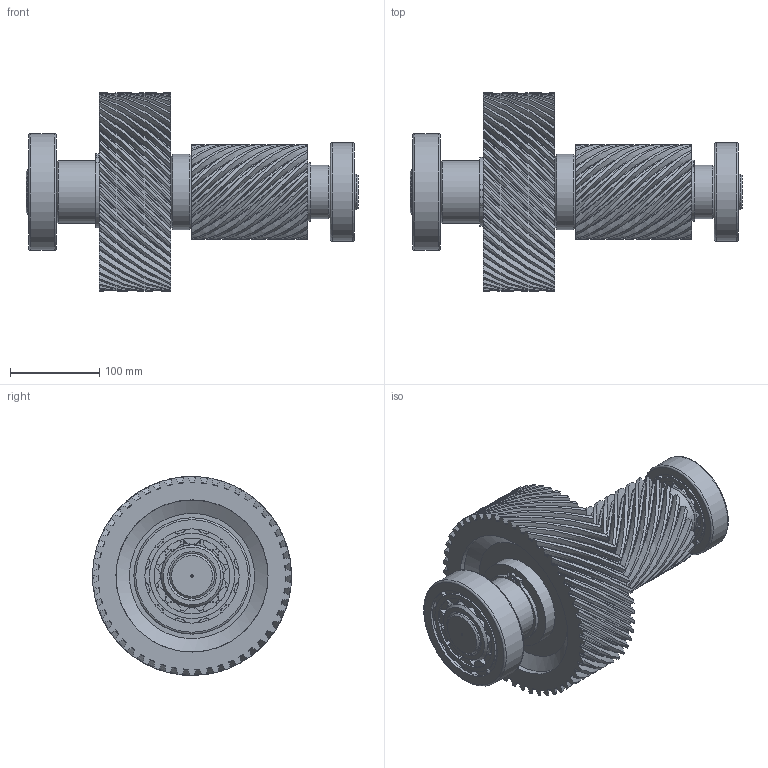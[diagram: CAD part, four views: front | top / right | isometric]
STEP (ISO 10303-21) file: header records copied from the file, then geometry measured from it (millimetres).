
FILE_DESCRIPTION(/* description */ (''),/* implementation_level */ '2;1');
FILE_NAME(/* name */ 'G:\YandexDisk\Работа\Inventor\Универ\ОАП\Лабораторные работы\ЛР6 Создание сборок\Редуктор\stp\Вал 2 в сборе.stp',/* time_stamp */ '2023-11-17T06:29:25+03:00',/* author */ ('34740'),/* organization */ (''),/* preprocessor_version */ 'ST-DEVELOPER v18.1',/* originating_system */ 'Autodesk Inventor 2022',/* authorisation */ '');
FILE_SCHEMA (('AUTOMOTIVE_DESIGN { 1 0 10303 214 3 1 1 }'));
Length unit declared in the file: millimetre
Products named in the file (10): Вал 2 в сборе; Вал 2; ISO 15 - 40 x 110 x 27; ISO 15 - 50 x 130 x 31; Стопорное кольцо 
DIN 471 - 60 x 3; Стопорное кольцр 
DIN 471 - 70 x 4; Червяк 2; Шестерня 1; Шпонка ISO 2491 18x7-70-A; Шпонка ISO 2491 20x8-63-A
Assembly tree (9 placements, depth 2):
  Вал 2 в сборе
    Вал 2
    ISO 15 - 40 x 110 x 27
    ISO 15 - 50 x 130 x 31
    Стопорное кольцо 
DIN 471 - 60 x 3
    Стопорное кольцр 
DIN 471 - 70 x 4
    Червяк 2
    Шестерня 1
    Шпонка ISO 2491 18x7-70-A
    Шпонка ISO 2491 20x8-63-A
Bounding box: 371 x 222.37 x 222.35 mm (x, y, z)
Volume: 4476225.9 mm3; surface area: 559869.1 mm2
Topology: 9 solids, 9 shells, 876 faces, 2514 edges, 1673 vertices
Faces by surface type: cylinder 296, bspline 284, plane 170, torus 104, cone 20, sphere 2
Full cylindrical faces by diameter (mm): 2.5 x2, 3 x2, 40 x2, 50 x2, 57 x1, 57.15 x1, 60 x2, 67 x1, 69.6 x1, 70 x2, 70.535 x1, 79.465 x1, 84 x1, 84.897 x1, 88.388 x2, 92.85 x1, 95.103 x1, 100 x2, 105.3 x2, 110 x1, 110.4 x1, 130 x1, 170 x1
Entity records: 184676 total; most frequent: CARTESIAN_POINT 162724, ORIENTED_EDGE 5020, DIRECTION 4418, EDGE_CURVE 2510, AXIS2_PLACEMENT_3D 2029, VERTEX_POINT 1673, CIRCLE 1418, EDGE_LOOP 1009
